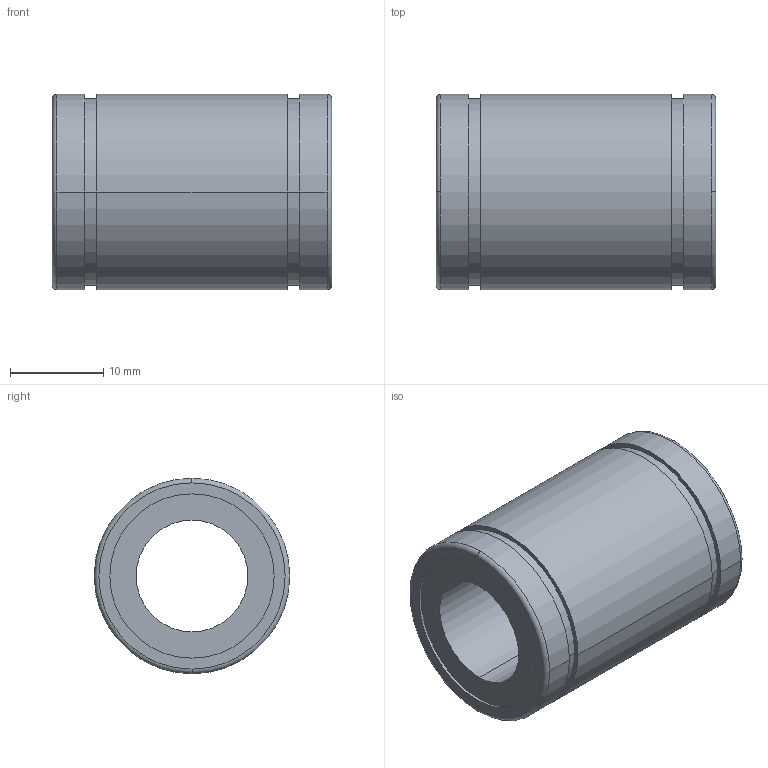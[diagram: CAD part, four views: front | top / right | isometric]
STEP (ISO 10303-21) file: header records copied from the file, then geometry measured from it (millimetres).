
FILE_DESCRIPTION(('FreeCAD Model'),'2;1');
FILE_NAME('Open CASCADE Shape Model','2021-05-03T15:21:51',('Author'),( ''),'Open CASCADE STEP processor 7.5','FreeCAD','Unknown');
FILE_SCHEMA(('AUTOMOTIVE_DESIGN { 1 0 10303 214 1 1 1 1 }'));
Length unit declared in the file: millimetre
Products named in the file (1): ball_bearing_lm12uu
Bounding box: 30 x 21 x 21 mm (x, y, z)
Volume: 6828.4 mm3; surface area: 3679.4 mm2
Topology: 1 solids, 1 shells, 28 faces, 62 edges, 42 vertices
Faces by surface type: cylinder 16, plane 8, torus 4
Entity records: 1893 total; most frequent: CARTESIAN_POINT 395, DIRECTION 267, ORIENTED_EDGE 124, PCURVE 124, DEFINITIONAL_REPRESENTATION 124, LINE 106, VECTOR 106, AXIS2_PLACEMENT_3D 75
